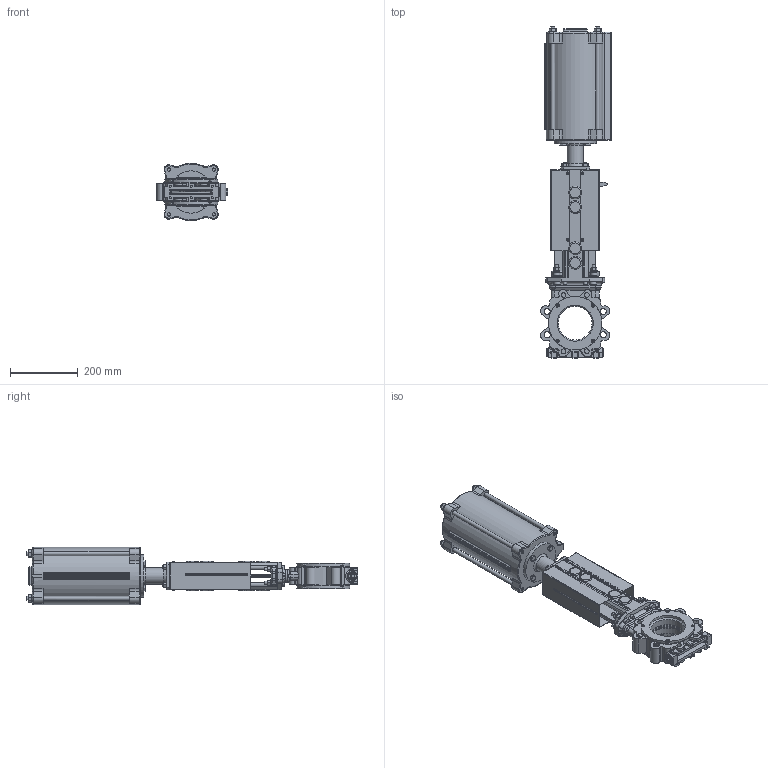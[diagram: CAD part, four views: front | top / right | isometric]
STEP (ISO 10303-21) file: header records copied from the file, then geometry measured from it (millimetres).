
FILE_DESCRIPTION(/* description */ (''),/* implementation_level */ '2;1');
FILE_NAME(/* name */ 'F:\3D-block färdiga för export\SLV-SLF\DN 100\SLV-DN100-PN10-FRSC160-165 LDR .stp',/* time_stamp */ '2021-01-20T11:19:33+01:00',/* author */ ('MATZET'),/* organization */ (''),/* preprocessor_version */ 'ST-DEVELOPER v18',/* originating_system */ 'Autodesk Inventor 2020',/* authorisation */ '');
FILE_SCHEMA (('AUTOMOTIVE_DESIGN { 1 0 10303 214 3 1 1 }'));
Products named in the file (1): SLV-DN100-PN10-FRSC160-165 LDR 
Bounding box: 210.25 x 982.5 x 170 mm (x, y, z)
Volume: 4865637.7 mm3; surface area: 1492325.5 mm2
Topology: 1 solids, 1 shells, 2605 faces, 6787 edges, 4275 vertices
Faces by surface type: plane 1054, cylinder 692, cone 273, bspline 265, torus 237, sphere 84
Full cylindrical faces by diameter (mm): 4 x6, 4.134 x4, 4.2 x16, 4.5 x4, 5 x8, 6.4 x1, 6.5 x8, 6.75 x6, 7 x1, 8 x2, 8.376 x2, 8.5 x8, 9 x2, 9.5 x4, 10 x35, 10.5 x8, 11 x8, 11.445 x2, 12 x13, 13 x7, 14 x8, 14.63 x4, 15 x4, 16 x2, 17.7 x1, 18 x4, 20 x12, 20.5 x1, 20.95 x2, 23 x4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
Entity records: 103421 total; most frequent: CARTESIAN_POINT 37882, DIRECTION 13454, ORIENTED_EDGE 13428, EDGE_CURVE 6714, AXIS2_PLACEMENT_3D 5529, VERTEX_POINT 4275, EDGE_LOOP 2913, CIRCLE 2897
